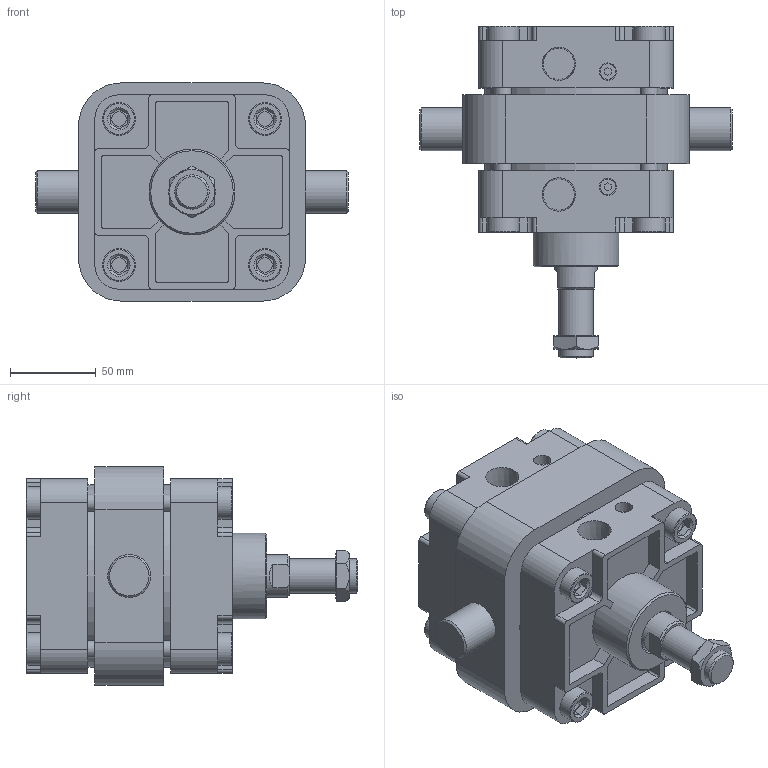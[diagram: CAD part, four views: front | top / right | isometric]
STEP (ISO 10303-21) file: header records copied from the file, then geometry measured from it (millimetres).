
FILE_DESCRIPTION(/* description */ ('Unknown'),/* implementation_level */ '2;1');
FILE_NAME(/* name */ 'WA100-0-TC',/* time_stamp */ '2026-07-17T16:57:50+08:00',/* author */ ('Unknown'),/* organization */ ('Unknown'),/* preprocessor_version */ 'ST-DEVELOPER v16.7',/* originating_system */ 'DEX',/* authorisation */ $);
FILE_SCHEMA (('CONFIG_CONTROL_DESIGN'));
Length unit declared in the file: millimetre
Products named in the file (8): WA100-0-TC; WA100_玡嶈搵; WA100_後9; WA100_鋁0; WA100_､ﾟｶbｬ｡ﾃ_;m^XD}; M20-1.5P-8_螺; WA100_T碪; WA100_TC
Assembly tree (10 placements, depth 2):
  WA100-0-TC
    WA100_玡嶈搵
    WA100_後9
    WA100_鋁0
    WA100_､ﾟｶbｬ｡ﾃ_;m^XD}
    M20-1.5P-8_螺
    WA100_T碪  x4
    WA100_TC
Bounding box: 182 x 193 x 127 mm (x, y, z)
Volume: 1556832.3 mm3; surface area: 264026.2 mm2
Topology: 10 solids, 10 shells, 374 faces, 904 edges, 601 vertices
Faces by surface type: plane 227, cylinder 114, cone 25, torus 8
Full cylindrical faces by diameter (mm): 8.5 x12, 9 x2, 10 x6, 14 x8, 14.2 x8, 18.376 x1, 19 x8, 20 x1, 25 x4, 26 x1, 50 x1, 99.5 x1, 100 x3, 106 x1, 107 x1
Entity records: 9998 total; most frequent: CARTESIAN_POINT 1474, DIRECTION 1394, ORIENTED_EDGE 1252, EDGE_CURVE 626, AXIS2_PLACEMENT_3D 510, VERTEX_POINT 442, EDGE_LOOP 384, FACE_BOUND 384
